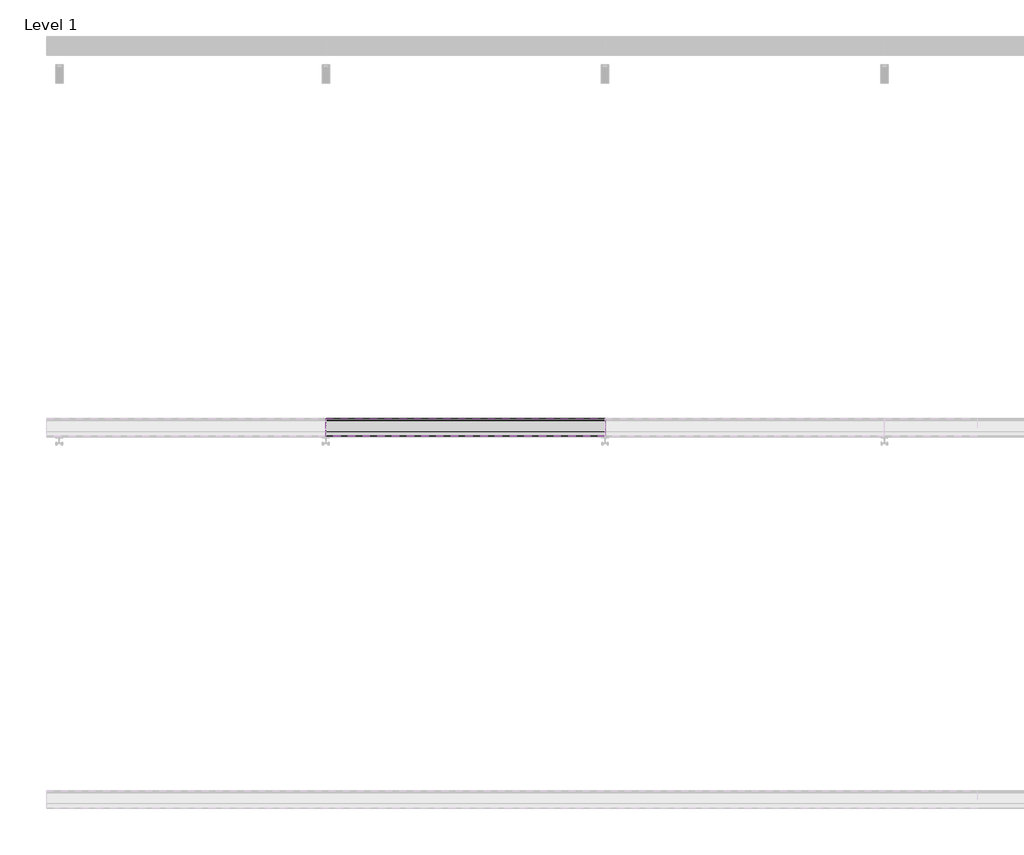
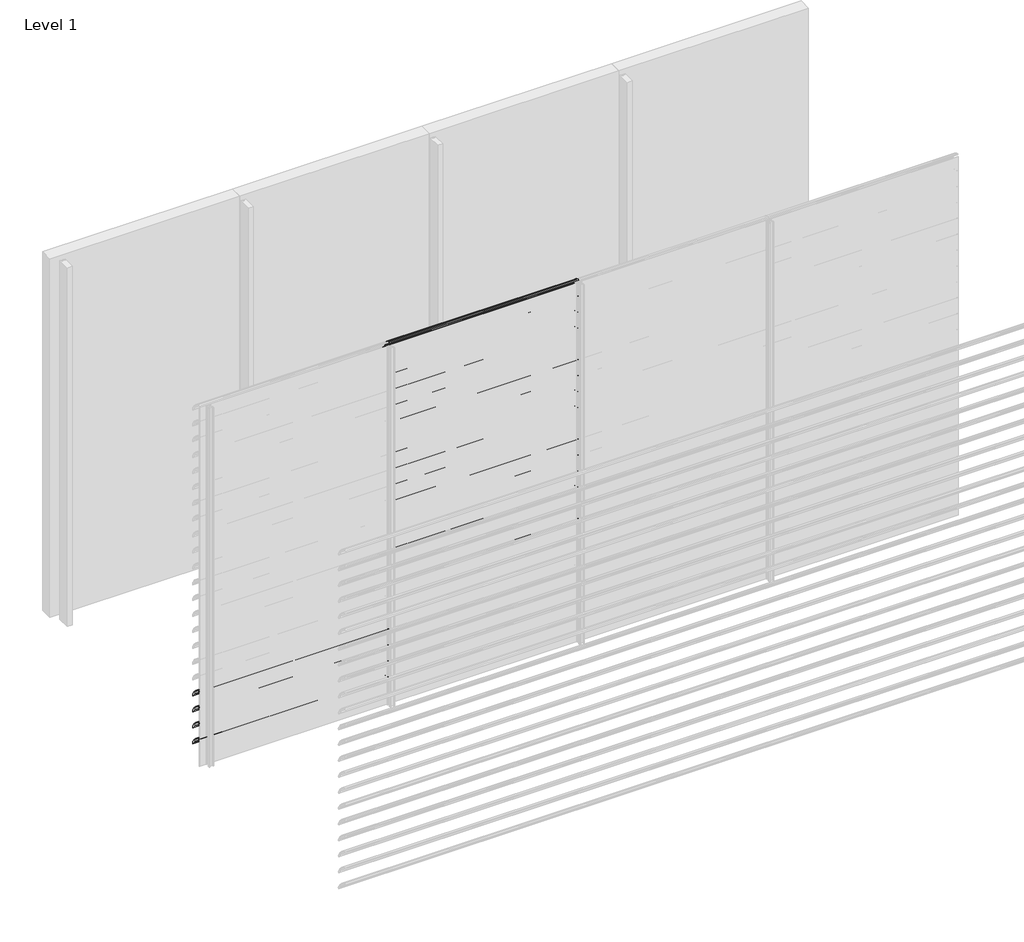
# One storey, part 16 of 57: 20 proxies.
"""IFC4 building model written with IfcOpenShell, lengths in millimetres."""

from ifc_helpers import new_model, si_unit, point, frame, frame_2d, origin, place, context, project, spatial, polyline, circle_curve, trimmed, segment, composite_curve, outline, extrude, element, save

model = new_model("IFC4")

# Units and contexts
model_context = context("Model", 3, world=origin())
ifc_project = project(units=[si_unit("LENGTHUNIT", "METRE", prefix="MILLI")], contexts=[model_context])

# Site, building, storey
site = spatial("IfcSite", under=ifc_project)
building = spatial("IfcBuilding", under=site)
storey = spatial("IfcBuildingStorey", under=building, Name="Level 1", Elevation=0.0)

# Proxies
placement = place(None, origin())
element("IfcBuildingElementProxy", 1, Name="Wall Sweeps", at=placement, inside=storey, context=model_context, shape_type="SweptSolid", body=[
    extrude(outline(composite_curve([segment(trimmed(circle_curve(frame_2d((-41993.7822526, 622.4913792)), 4.2177474), [point((-41989.6985606, 623.5462976))], [point((-41993.7822526, 626.7091266))], False, "CARTESIAN"), True, "CONTINUOUS"), segment(trimmed(circle_curve(frame_2d((-42018.7150834, 524.2536312)), 105.4456002), [point((-41993.7822526, 626.7091266))], [point((-41971.7914298, 618.6832099))], False, "CARTESIAN"), True, "CONTINUOUS"), segment(trimmed(circle_curve(frame_2d((-42061.7199745, 470.0352476)), 173.7335887), [point((-41971.7914298, 618.6832099))], [point((-41913.0720121, 559.9637922))], False, "CARTESIAN"), True, "CONTINUOUS"), segment(trimmed(circle_curve(frame_2d((-42004.9297178, 508.1860314)), 105.4456002), [point((-41913.0720121, 559.9637922))], [point((-41903.6249616, 537.4455765))], False, "CARTESIAN"), True, "CONTINUOUS"), segment(trimmed(circle_curve(frame_2d((-41907.809737, 536.3307305)), 4.3307305), [point((-41903.6249616, 537.4455765))], [point((-41909.0769196, 532.189538))], False, "CARTESIAN"), True, "CONTINUOUS"), segment(polyline([(-41909.0769196, 532.189538), (-41934.7401984, 556.9722783)]), True, "CONTINUOUS"), segment(trimmed(circle_curve(frame_2d((-41931.3879574, 559.2977626)), 4.079877), [point((-41934.7401984, 556.9722783))], [point((-41930.7310597, 563.3244091))], False, "CARTESIAN"), True, "CONTINUOUS"), segment(trimmed(circle_curve(frame_2d((-42014.6665585, 541.2544323)), 86.7885467), [point((-41930.7310597, 563.3244091))], [point((-41942.3028351, 589.1683485))], True, "CARTESIAN"), True, "CONTINUOUS"), segment(polyline([(-41942.3028351, 589.1683485), (-41940.7230099, 591.9046861)]), True, "CONTINUOUS"), segment(trimmed(circle_curve(frame_2d((-42061.7199745, 470.0352476)), 171.7335887), [point((-41940.7230099, 591.9046861))], [point((-41972.7555872, 616.9289618))], True, "CARTESIAN"), True, "CONTINUOUS"), segment(trimmed(circle_curve(frame_2d((-42018.7150834, 524.2536312)), 103.4456002), [point((-41972.7555872, 616.9289618))], [point((-41989.6985606, 623.5462976))], True, "CARTESIAN"), True, "CONTINUOUS")], self_intersect=False)), frame((0.0, 0.0, 0.0), z_axis=(1.0, 0.0, 0.0), x_axis=(0.0, 1.0, 0.0)), (0.0, 0.0, 1.0), 1500.0),
])
element("IfcBuildingElementProxy", 2, Name="Wall Sweeps", at=placement, inside=storey, context=model_context, shape_type="SweptSolid", body=[
    extrude(outline(composite_curve([segment(trimmed(circle_curve(frame_2d((-41993.7822526, 489.4913792)), 4.2177474), [point((-41989.6985606, 490.5462976))], [point((-41993.7822526, 493.7091266))], False, "CARTESIAN"), True, "CONTINUOUS"), segment(trimmed(circle_curve(frame_2d((-42018.7150834, 391.2536312)), 105.4456002), [point((-41993.7822526, 493.7091266))], [point((-41971.7914298, 485.6832099))], False, "CARTESIAN"), True, "CONTINUOUS"), segment(trimmed(circle_curve(frame_2d((-42061.7199745, 337.0352476)), 173.7335887), [point((-41971.7914298, 485.6832099))], [point((-41913.0720121, 426.9637922))], False, "CARTESIAN"), True, "CONTINUOUS"), segment(trimmed(circle_curve(frame_2d((-42004.9297178, 375.1860314)), 105.4456002), [point((-41913.0720121, 426.9637922))], [point((-41903.6249616, 404.4455765))], False, "CARTESIAN"), True, "CONTINUOUS"), segment(trimmed(circle_curve(frame_2d((-41907.809737, 403.3307305)), 4.3307305), [point((-41903.6249616, 404.4455765))], [point((-41909.0769196, 399.189538))], False, "CARTESIAN"), True, "CONTINUOUS"), segment(polyline([(-41909.0769196, 399.189538), (-41934.7401984, 423.9722783)]), True, "CONTINUOUS"), segment(trimmed(circle_curve(frame_2d((-41931.3879574, 426.2977626)), 4.079877), [point((-41934.7401984, 423.9722783))], [point((-41930.7310597, 430.3244091))], False, "CARTESIAN"), True, "CONTINUOUS"), segment(trimmed(circle_curve(frame_2d((-42014.6665585, 408.2544323)), 86.7885467), [point((-41930.7310597, 430.3244091))], [point((-41942.3028351, 456.1683485))], True, "CARTESIAN"), True, "CONTINUOUS"), segment(polyline([(-41942.3028351, 456.1683485), (-41940.7230099, 458.9046861)]), True, "CONTINUOUS"), segment(trimmed(circle_curve(frame_2d((-42061.7199745, 337.0352476)), 171.7335887), [point((-41940.7230099, 458.9046861))], [point((-41972.7555872, 483.9289618))], True, "CARTESIAN"), True, "CONTINUOUS"), segment(trimmed(circle_curve(frame_2d((-42018.7150834, 391.2536312)), 103.4456002), [point((-41972.7555872, 483.9289618))], [point((-41989.6985606, 490.5462976))], True, "CARTESIAN"), True, "CONTINUOUS")], self_intersect=False)), frame((0.0, 0.0, 0.0), z_axis=(1.0, 0.0, 0.0), x_axis=(0.0, 1.0, 0.0)), (0.0, 0.0, 1.0), 1500.0),
])
element("IfcBuildingElementProxy", 3, Name="Wall Sweeps", at=placement, inside=storey, context=model_context, shape_type="SweptSolid", body=[
    extrude(outline(composite_curve([segment(trimmed(circle_curve(frame_2d((-41993.7822526, 356.4913792)), 4.2177474), [point((-41989.6985606, 357.5462976))], [point((-41993.7822526, 360.7091266))], False, "CARTESIAN"), True, "CONTINUOUS"), segment(trimmed(circle_curve(frame_2d((-42018.7150834, 258.2536312)), 105.4456002), [point((-41993.7822526, 360.7091266))], [point((-41971.7914298, 352.6832099))], False, "CARTESIAN"), True, "CONTINUOUS"), segment(trimmed(circle_curve(frame_2d((-42061.7199745, 204.0352476)), 173.7335887), [point((-41971.7914298, 352.6832099))], [point((-41913.0720121, 293.9637922))], False, "CARTESIAN"), True, "CONTINUOUS"), segment(trimmed(circle_curve(frame_2d((-42004.9297178, 242.1860314)), 105.4456002), [point((-41913.0720121, 293.9637922))], [point((-41903.6249616, 271.4455765))], False, "CARTESIAN"), True, "CONTINUOUS"), segment(trimmed(circle_curve(frame_2d((-41907.809737, 270.3307305)), 4.3307305), [point((-41903.6249616, 271.4455765))], [point((-41909.0769196, 266.189538))], False, "CARTESIAN"), True, "CONTINUOUS"), segment(polyline([(-41909.0769196, 266.189538), (-41934.7401984, 290.9722783)]), True, "CONTINUOUS"), segment(trimmed(circle_curve(frame_2d((-41931.3879574, 293.2977626)), 4.079877), [point((-41934.7401984, 290.9722783))], [point((-41930.7310597, 297.3244091))], False, "CARTESIAN"), True, "CONTINUOUS"), segment(trimmed(circle_curve(frame_2d((-42014.6665585, 275.2544323)), 86.7885467), [point((-41930.7310597, 297.3244091))], [point((-41942.3028351, 323.1683485))], True, "CARTESIAN"), True, "CONTINUOUS"), segment(polyline([(-41942.3028351, 323.1683485), (-41940.7230099, 325.9046861)]), True, "CONTINUOUS"), segment(trimmed(circle_curve(frame_2d((-42061.7199745, 204.0352476)), 171.7335887), [point((-41940.7230099, 325.9046861))], [point((-41972.7555872, 350.9289618))], True, "CARTESIAN"), True, "CONTINUOUS"), segment(trimmed(circle_curve(frame_2d((-42018.7150834, 258.2536312)), 103.4456002), [point((-41972.7555872, 350.9289618))], [point((-41989.6985606, 357.5462976))], True, "CARTESIAN"), True, "CONTINUOUS")], self_intersect=False)), frame((0.0, 0.0, 0.0), z_axis=(1.0, 0.0, 0.0), x_axis=(0.0, 1.0, 0.0)), (0.0, 0.0, 1.0), 1500.0),
])
element("IfcBuildingElementProxy", 4, Name="Wall Sweeps", at=placement, inside=storey, context=model_context, shape_type="SweptSolid", body=[
    extrude(outline(composite_curve([segment(trimmed(circle_curve(frame_2d((-41993.7822526, 223.4913792)), 4.2177474), [point((-41989.6985606, 224.5462976))], [point((-41993.7822526, 227.7091266))], False, "CARTESIAN"), True, "CONTINUOUS"), segment(trimmed(circle_curve(frame_2d((-42018.7150834, 125.2536312)), 105.4456002), [point((-41993.7822526, 227.7091266))], [point((-41971.7914298, 219.6832099))], False, "CARTESIAN"), True, "CONTINUOUS"), segment(trimmed(circle_curve(frame_2d((-42061.7199745, 71.0352476)), 173.7335887), [point((-41971.7914298, 219.6832099))], [point((-41913.0720121, 160.9637922))], False, "CARTESIAN"), True, "CONTINUOUS"), segment(trimmed(circle_curve(frame_2d((-42004.9297178, 109.1860314)), 105.4456002), [point((-41913.0720121, 160.9637922))], [point((-41903.6249616, 138.4455765))], False, "CARTESIAN"), True, "CONTINUOUS"), segment(trimmed(circle_curve(frame_2d((-41907.809737, 137.3307305)), 4.3307305), [point((-41903.6249616, 138.4455765))], [point((-41909.0769196, 133.189538))], False, "CARTESIAN"), True, "CONTINUOUS"), segment(polyline([(-41909.0769196, 133.189538), (-41934.7401984, 157.9722783)]), True, "CONTINUOUS"), segment(trimmed(circle_curve(frame_2d((-41931.3879574, 160.2977626)), 4.079877), [point((-41934.7401984, 157.9722783))], [point((-41930.7310597, 164.3244091))], False, "CARTESIAN"), True, "CONTINUOUS"), segment(trimmed(circle_curve(frame_2d((-42014.6665585, 142.2544323)), 86.7885467), [point((-41930.7310597, 164.3244091))], [point((-41942.3028351, 190.1683485))], True, "CARTESIAN"), True, "CONTINUOUS"), segment(polyline([(-41942.3028351, 190.1683485), (-41940.7230099, 192.9046861)]), True, "CONTINUOUS"), segment(trimmed(circle_curve(frame_2d((-42061.7199745, 71.0352476)), 171.7335887), [point((-41940.7230099, 192.9046861))], [point((-41972.7555872, 217.9289618))], True, "CARTESIAN"), True, "CONTINUOUS"), segment(trimmed(circle_curve(frame_2d((-42018.7150834, 125.2536312)), 103.4456002), [point((-41972.7555872, 217.9289618))], [point((-41989.6985606, 224.5462976))], True, "CARTESIAN"), True, "CONTINUOUS")], self_intersect=False)), frame((0.0, 0.0, 0.0), z_axis=(1.0, 0.0, 0.0), x_axis=(0.0, 1.0, 0.0)), (0.0, 0.0, 1.0), 1500.0),
])
element("IfcBuildingElementProxy", 5, Name="Wall Sweeps", at=placement, inside=storey, context=model_context, shape_type="SweptSolid", body=[
    extrude(outline(composite_curve([segment(trimmed(circle_curve(frame_2d((-41993.7822526, 3016.4913792)), 4.2177474), [point((-41989.6985606, 3017.5462976))], [point((-41993.7822526, 3020.7091266))], False, "CARTESIAN"), True, "CONTINUOUS"), segment(trimmed(circle_curve(frame_2d((-42018.7150834, 2918.2536312)), 105.4456002), [point((-41993.7822526, 3020.7091266))], [point((-41971.7914298, 3012.6832099))], False, "CARTESIAN"), True, "CONTINUOUS"), segment(trimmed(circle_curve(frame_2d((-42061.7199745, 2864.0352476)), 173.7335887), [point((-41971.7914298, 3012.6832099))], [point((-41913.0720121, 2953.9637922))], False, "CARTESIAN"), True, "CONTINUOUS"), segment(trimmed(circle_curve(frame_2d((-42004.9297178, 2902.1860314)), 105.4456002), [point((-41913.0720121, 2953.9637922))], [point((-41903.6249616, 2931.4455765))], False, "CARTESIAN"), True, "CONTINUOUS"), segment(trimmed(circle_curve(frame_2d((-41907.809737, 2930.3307305)), 4.3307305), [point((-41903.6249616, 2931.4455765))], [point((-41909.0769196, 2926.189538))], False, "CARTESIAN"), True, "CONTINUOUS"), segment(polyline([(-41909.0769196, 2926.189538), (-41934.7401984, 2950.9722783)]), True, "CONTINUOUS"), segment(trimmed(circle_curve(frame_2d((-41931.3879574, 2953.2977626)), 4.079877), [point((-41934.7401984, 2950.9722783))], [point((-41930.7310597, 2957.3244091))], False, "CARTESIAN"), True, "CONTINUOUS"), segment(trimmed(circle_curve(frame_2d((-42014.6665585, 2935.2544323)), 86.7885467), [point((-41930.7310597, 2957.3244091))], [point((-41942.3028351, 2983.1683485))], True, "CARTESIAN"), True, "CONTINUOUS"), segment(polyline([(-41942.3028351, 2983.1683485), (-41940.7230099, 2985.9046861)]), True, "CONTINUOUS"), segment(trimmed(circle_curve(frame_2d((-42061.7199745, 2864.0352476)), 171.7335887), [point((-41940.7230099, 2985.9046861))], [point((-41972.7555872, 3010.9289618))], True, "CARTESIAN"), True, "CONTINUOUS"), segment(trimmed(circle_curve(frame_2d((-42018.7150834, 2918.2536312)), 103.4456002), [point((-41972.7555872, 3010.9289618))], [point((-41989.6985606, 3017.5462976))], True, "CARTESIAN"), True, "CONTINUOUS")], self_intersect=False)), frame((1500.0, 0.0, 0.0), z_axis=(1.0, 0.0, 0.0), x_axis=(0.0, 1.0, 0.0)), (0.0, 0.0, 1.0), 1500.0),
])
element("IfcBuildingElementProxy", 6, Name="Wall Sweeps", at=placement, inside=storey, context=model_context, shape_type="SweptSolid", body=[
    extrude(outline(composite_curve([segment(trimmed(circle_curve(frame_2d((-41993.7822526, 2883.4913792)), 4.2177474), [point((-41989.6985606, 2884.5462976))], [point((-41993.7822526, 2887.7091266))], False, "CARTESIAN"), True, "CONTINUOUS"), segment(trimmed(circle_curve(frame_2d((-42018.7150834, 2785.2536312)), 105.4456002), [point((-41993.7822526, 2887.7091266))], [point((-41971.7914298, 2879.6832099))], False, "CARTESIAN"), True, "CONTINUOUS"), segment(trimmed(circle_curve(frame_2d((-42061.7199745, 2731.0352476)), 173.7335887), [point((-41971.7914298, 2879.6832099))], [point((-41913.0720121, 2820.9637922))], False, "CARTESIAN"), True, "CONTINUOUS"), segment(trimmed(circle_curve(frame_2d((-42004.9297178, 2769.1860314)), 105.4456002), [point((-41913.0720121, 2820.9637922))], [point((-41903.6249616, 2798.4455765))], False, "CARTESIAN"), True, "CONTINUOUS"), segment(trimmed(circle_curve(frame_2d((-41907.809737, 2797.3307305)), 4.3307305), [point((-41903.6249616, 2798.4455765))], [point((-41909.0769196, 2793.189538))], False, "CARTESIAN"), True, "CONTINUOUS"), segment(polyline([(-41909.0769196, 2793.189538), (-41934.7401984, 2817.9722783)]), True, "CONTINUOUS"), segment(trimmed(circle_curve(frame_2d((-41931.3879574, 2820.2977626)), 4.079877), [point((-41934.7401984, 2817.9722783))], [point((-41930.7310597, 2824.3244091))], False, "CARTESIAN"), True, "CONTINUOUS"), segment(trimmed(circle_curve(frame_2d((-42014.6665585, 2802.2544323)), 86.7885467), [point((-41930.7310597, 2824.3244091))], [point((-41942.3028351, 2850.1683485))], True, "CARTESIAN"), True, "CONTINUOUS"), segment(polyline([(-41942.3028351, 2850.1683485), (-41940.7230099, 2852.9046861)]), True, "CONTINUOUS"), segment(trimmed(circle_curve(frame_2d((-42061.7199745, 2731.0352476)), 171.7335887), [point((-41940.7230099, 2852.9046861))], [point((-41972.7555872, 2877.9289618))], True, "CARTESIAN"), True, "CONTINUOUS"), segment(trimmed(circle_curve(frame_2d((-42018.7150834, 2785.2536312)), 103.4456002), [point((-41972.7555872, 2877.9289618))], [point((-41989.6985606, 2884.5462976))], True, "CARTESIAN"), True, "CONTINUOUS")], self_intersect=False)), frame((1500.0, 0.0, 0.0), z_axis=(1.0, 0.0, 0.0), x_axis=(0.0, 1.0, 0.0)), (0.0, 0.0, 1.0), 1500.0),
])
element("IfcBuildingElementProxy", 7, Name="Wall Sweeps", at=placement, inside=storey, context=model_context, shape_type="SweptSolid", body=[
    extrude(outline(composite_curve([segment(trimmed(circle_curve(frame_2d((-41993.7822526, 2750.4913792)), 4.2177474), [point((-41989.6985606, 2751.5462976))], [point((-41993.7822526, 2754.7091266))], False, "CARTESIAN"), True, "CONTINUOUS"), segment(trimmed(circle_curve(frame_2d((-42018.7150834, 2652.2536312)), 105.4456002), [point((-41993.7822526, 2754.7091266))], [point((-41971.7914298, 2746.6832099))], False, "CARTESIAN"), True, "CONTINUOUS"), segment(trimmed(circle_curve(frame_2d((-42061.7199745, 2598.0352476)), 173.7335887), [point((-41971.7914298, 2746.6832099))], [point((-41913.0720121, 2687.9637922))], False, "CARTESIAN"), True, "CONTINUOUS"), segment(trimmed(circle_curve(frame_2d((-42004.9297178, 2636.1860314)), 105.4456002), [point((-41913.0720121, 2687.9637922))], [point((-41903.6249616, 2665.4455765))], False, "CARTESIAN"), True, "CONTINUOUS"), segment(trimmed(circle_curve(frame_2d((-41907.809737, 2664.3307305)), 4.3307305), [point((-41903.6249616, 2665.4455765))], [point((-41909.0769196, 2660.189538))], False, "CARTESIAN"), True, "CONTINUOUS"), segment(polyline([(-41909.0769196, 2660.189538), (-41934.7401984, 2684.9722783)]), True, "CONTINUOUS"), segment(trimmed(circle_curve(frame_2d((-41931.3879574, 2687.2977626)), 4.079877), [point((-41934.7401984, 2684.9722783))], [point((-41930.7310597, 2691.3244091))], False, "CARTESIAN"), True, "CONTINUOUS"), segment(trimmed(circle_curve(frame_2d((-42014.6665585, 2669.2544323)), 86.7885467), [point((-41930.7310597, 2691.3244091))], [point((-41942.3028351, 2717.1683485))], True, "CARTESIAN"), True, "CONTINUOUS"), segment(polyline([(-41942.3028351, 2717.1683485), (-41940.7230099, 2719.9046861)]), True, "CONTINUOUS"), segment(trimmed(circle_curve(frame_2d((-42061.7199745, 2598.0352476)), 171.7335887), [point((-41940.7230099, 2719.9046861))], [point((-41972.7555872, 2744.9289618))], True, "CARTESIAN"), True, "CONTINUOUS"), segment(trimmed(circle_curve(frame_2d((-42018.7150834, 2652.2536312)), 103.4456002), [point((-41972.7555872, 2744.9289618))], [point((-41989.6985606, 2751.5462976))], True, "CARTESIAN"), True, "CONTINUOUS")], self_intersect=False)), frame((1500.0, 0.0, 0.0), z_axis=(1.0, 0.0, 0.0), x_axis=(0.0, 1.0, 0.0)), (0.0, 0.0, 1.0), 1500.0),
])
element("IfcBuildingElementProxy", 8, Name="Wall Sweeps", at=placement, inside=storey, context=model_context, shape_type="SweptSolid", body=[
    extrude(outline(composite_curve([segment(trimmed(circle_curve(frame_2d((-41993.7822526, 2617.4913792)), 4.2177474), [point((-41989.6985606, 2618.5462976))], [point((-41993.7822526, 2621.7091266))], False, "CARTESIAN"), True, "CONTINUOUS"), segment(trimmed(circle_curve(frame_2d((-42018.7150834, 2519.2536312)), 105.4456002), [point((-41993.7822526, 2621.7091266))], [point((-41971.7914298, 2613.6832099))], False, "CARTESIAN"), True, "CONTINUOUS"), segment(trimmed(circle_curve(frame_2d((-42061.7199745, 2465.0352476)), 173.7335887), [point((-41971.7914298, 2613.6832099))], [point((-41913.0720121, 2554.9637922))], False, "CARTESIAN"), True, "CONTINUOUS"), segment(trimmed(circle_curve(frame_2d((-42004.9297178, 2503.1860314)), 105.4456002), [point((-41913.0720121, 2554.9637922))], [point((-41903.6249616, 2532.4455765))], False, "CARTESIAN"), True, "CONTINUOUS"), segment(trimmed(circle_curve(frame_2d((-41907.809737, 2531.3307305)), 4.3307305), [point((-41903.6249616, 2532.4455765))], [point((-41909.0769196, 2527.189538))], False, "CARTESIAN"), True, "CONTINUOUS"), segment(polyline([(-41909.0769196, 2527.189538), (-41934.7401984, 2551.9722783)]), True, "CONTINUOUS"), segment(trimmed(circle_curve(frame_2d((-41931.3879574, 2554.2977626)), 4.079877), [point((-41934.7401984, 2551.9722783))], [point((-41930.7310597, 2558.3244091))], False, "CARTESIAN"), True, "CONTINUOUS"), segment(trimmed(circle_curve(frame_2d((-42014.6665585, 2536.2544323)), 86.7885467), [point((-41930.7310597, 2558.3244091))], [point((-41942.3028351, 2584.1683485))], True, "CARTESIAN"), True, "CONTINUOUS"), segment(polyline([(-41942.3028351, 2584.1683485), (-41940.7230099, 2586.9046861)]), True, "CONTINUOUS"), segment(trimmed(circle_curve(frame_2d((-42061.7199745, 2465.0352476)), 171.7335887), [point((-41940.7230099, 2586.9046861))], [point((-41972.7555872, 2611.9289618))], True, "CARTESIAN"), True, "CONTINUOUS"), segment(trimmed(circle_curve(frame_2d((-42018.7150834, 2519.2536312)), 103.4456002), [point((-41972.7555872, 2611.9289618))], [point((-41989.6985606, 2618.5462976))], True, "CARTESIAN"), True, "CONTINUOUS")], self_intersect=False)), frame((1500.0, 0.0, 0.0), z_axis=(1.0, 0.0, 0.0), x_axis=(0.0, 1.0, 0.0)), (0.0, 0.0, 1.0), 1500.0),
])
element("IfcBuildingElementProxy", 9, Name="Wall Sweeps", at=placement, inside=storey, context=model_context, shape_type="SweptSolid", body=[
    extrude(outline(composite_curve([segment(trimmed(circle_curve(frame_2d((-41993.7822526, 2484.4913792)), 4.2177474), [point((-41989.6985606, 2485.5462976))], [point((-41993.7822526, 2488.7091266))], False, "CARTESIAN"), True, "CONTINUOUS"), segment(trimmed(circle_curve(frame_2d((-42018.7150834, 2386.2536312)), 105.4456002), [point((-41993.7822526, 2488.7091266))], [point((-41971.7914298, 2480.6832099))], False, "CARTESIAN"), True, "CONTINUOUS"), segment(trimmed(circle_curve(frame_2d((-42061.7199745, 2332.0352476)), 173.7335887), [point((-41971.7914298, 2480.6832099))], [point((-41913.0720121, 2421.9637922))], False, "CARTESIAN"), True, "CONTINUOUS"), segment(trimmed(circle_curve(frame_2d((-42004.9297178, 2370.1860314)), 105.4456002), [point((-41913.0720121, 2421.9637922))], [point((-41903.6249616, 2399.4455765))], False, "CARTESIAN"), True, "CONTINUOUS"), segment(trimmed(circle_curve(frame_2d((-41907.809737, 2398.3307305)), 4.3307305), [point((-41903.6249616, 2399.4455765))], [point((-41909.0769196, 2394.189538))], False, "CARTESIAN"), True, "CONTINUOUS"), segment(polyline([(-41909.0769196, 2394.189538), (-41934.7401984, 2418.9722783)]), True, "CONTINUOUS"), segment(trimmed(circle_curve(frame_2d((-41931.3879574, 2421.2977626)), 4.079877), [point((-41934.7401984, 2418.9722783))], [point((-41930.7310597, 2425.3244091))], False, "CARTESIAN"), True, "CONTINUOUS"), segment(trimmed(circle_curve(frame_2d((-42014.6665585, 2403.2544323)), 86.7885467), [point((-41930.7310597, 2425.3244091))], [point((-41942.3028351, 2451.1683485))], True, "CARTESIAN"), True, "CONTINUOUS"), segment(polyline([(-41942.3028351, 2451.1683485), (-41940.7230099, 2453.9046861)]), True, "CONTINUOUS"), segment(trimmed(circle_curve(frame_2d((-42061.7199745, 2332.0352476)), 171.7335887), [point((-41940.7230099, 2453.9046861))], [point((-41972.7555872, 2478.9289618))], True, "CARTESIAN"), True, "CONTINUOUS"), segment(trimmed(circle_curve(frame_2d((-42018.7150834, 2386.2536312)), 103.4456002), [point((-41972.7555872, 2478.9289618))], [point((-41989.6985606, 2485.5462976))], True, "CARTESIAN"), True, "CONTINUOUS")], self_intersect=False)), frame((1500.0, 0.0, 0.0), z_axis=(1.0, 0.0, 0.0), x_axis=(0.0, 1.0, 0.0)), (0.0, 0.0, 1.0), 1500.0),
])
element("IfcBuildingElementProxy", 10, Name="Wall Sweeps", at=placement, inside=storey, context=model_context, shape_type="SweptSolid", body=[
    extrude(outline(composite_curve([segment(trimmed(circle_curve(frame_2d((-41993.7822526, 2351.4913792)), 4.2177474), [point((-41989.6985606, 2352.5462976))], [point((-41993.7822526, 2355.7091266))], False, "CARTESIAN"), True, "CONTINUOUS"), segment(trimmed(circle_curve(frame_2d((-42018.7150834, 2253.2536312)), 105.4456002), [point((-41993.7822526, 2355.7091266))], [point((-41971.7914298, 2347.6832099))], False, "CARTESIAN"), True, "CONTINUOUS"), segment(trimmed(circle_curve(frame_2d((-42061.7199745, 2199.0352476)), 173.7335887), [point((-41971.7914298, 2347.6832099))], [point((-41913.0720121, 2288.9637922))], False, "CARTESIAN"), True, "CONTINUOUS"), segment(trimmed(circle_curve(frame_2d((-42004.9297178, 2237.1860314)), 105.4456002), [point((-41913.0720121, 2288.9637922))], [point((-41903.6249616, 2266.4455765))], False, "CARTESIAN"), True, "CONTINUOUS"), segment(trimmed(circle_curve(frame_2d((-41907.809737, 2265.3307305)), 4.3307305), [point((-41903.6249616, 2266.4455765))], [point((-41909.0769196, 2261.189538))], False, "CARTESIAN"), True, "CONTINUOUS"), segment(polyline([(-41909.0769196, 2261.189538), (-41934.7401984, 2285.9722783)]), True, "CONTINUOUS"), segment(trimmed(circle_curve(frame_2d((-41931.3879574, 2288.2977626)), 4.079877), [point((-41934.7401984, 2285.9722783))], [point((-41930.7310597, 2292.3244091))], False, "CARTESIAN"), True, "CONTINUOUS"), segment(trimmed(circle_curve(frame_2d((-42014.6665585, 2270.2544323)), 86.7885467), [point((-41930.7310597, 2292.3244091))], [point((-41942.3028351, 2318.1683485))], True, "CARTESIAN"), True, "CONTINUOUS"), segment(polyline([(-41942.3028351, 2318.1683485), (-41940.7230099, 2320.9046861)]), True, "CONTINUOUS"), segment(trimmed(circle_curve(frame_2d((-42061.7199745, 2199.0352476)), 171.7335887), [point((-41940.7230099, 2320.9046861))], [point((-41972.7555872, 2345.9289618))], True, "CARTESIAN"), True, "CONTINUOUS"), segment(trimmed(circle_curve(frame_2d((-42018.7150834, 2253.2536312)), 103.4456002), [point((-41972.7555872, 2345.9289618))], [point((-41989.6985606, 2352.5462976))], True, "CARTESIAN"), True, "CONTINUOUS")], self_intersect=False)), frame((1500.0, 0.0, 0.0), z_axis=(1.0, 0.0, 0.0), x_axis=(0.0, 1.0, 0.0)), (0.0, 0.0, 1.0), 1500.0),
])
element("IfcBuildingElementProxy", 11, Name="Wall Sweeps", at=placement, inside=storey, context=model_context, shape_type="SweptSolid", body=[
    extrude(outline(composite_curve([segment(trimmed(circle_curve(frame_2d((-41993.7822526, 2218.4913792)), 4.2177474), [point((-41989.6985606, 2219.5462976))], [point((-41993.7822526, 2222.7091266))], False, "CARTESIAN"), True, "CONTINUOUS"), segment(trimmed(circle_curve(frame_2d((-42018.7150834, 2120.2536312)), 105.4456002), [point((-41993.7822526, 2222.7091266))], [point((-41971.7914298, 2214.6832099))], False, "CARTESIAN"), True, "CONTINUOUS"), segment(trimmed(circle_curve(frame_2d((-42061.7199745, 2066.0352476)), 173.7335887), [point((-41971.7914298, 2214.6832099))], [point((-41913.0720121, 2155.9637922))], False, "CARTESIAN"), True, "CONTINUOUS"), segment(trimmed(circle_curve(frame_2d((-42004.9297178, 2104.1860314)), 105.4456002), [point((-41913.0720121, 2155.9637922))], [point((-41903.6249616, 2133.4455765))], False, "CARTESIAN"), True, "CONTINUOUS"), segment(trimmed(circle_curve(frame_2d((-41907.809737, 2132.3307305)), 4.3307305), [point((-41903.6249616, 2133.4455765))], [point((-41909.0769196, 2128.189538))], False, "CARTESIAN"), True, "CONTINUOUS"), segment(polyline([(-41909.0769196, 2128.189538), (-41934.7401984, 2152.9722783)]), True, "CONTINUOUS"), segment(trimmed(circle_curve(frame_2d((-41931.3879574, 2155.2977626)), 4.079877), [point((-41934.7401984, 2152.9722783))], [point((-41930.7310597, 2159.3244091))], False, "CARTESIAN"), True, "CONTINUOUS"), segment(trimmed(circle_curve(frame_2d((-42014.6665585, 2137.2544323)), 86.7885467), [point((-41930.7310597, 2159.3244091))], [point((-41942.3028351, 2185.1683485))], True, "CARTESIAN"), True, "CONTINUOUS"), segment(polyline([(-41942.3028351, 2185.1683485), (-41940.7230099, 2187.9046861)]), True, "CONTINUOUS"), segment(trimmed(circle_curve(frame_2d((-42061.7199745, 2066.0352476)), 171.7335887), [point((-41940.7230099, 2187.9046861))], [point((-41972.7555872, 2212.9289618))], True, "CARTESIAN"), True, "CONTINUOUS"), segment(trimmed(circle_curve(frame_2d((-42018.7150834, 2120.2536312)), 103.4456002), [point((-41972.7555872, 2212.9289618))], [point((-41989.6985606, 2219.5462976))], True, "CARTESIAN"), True, "CONTINUOUS")], self_intersect=False)), frame((1500.0, 0.0, 0.0), z_axis=(1.0, 0.0, 0.0), x_axis=(0.0, 1.0, 0.0)), (0.0, 0.0, 1.0), 1500.0),
])
element("IfcBuildingElementProxy", 12, Name="Wall Sweeps", at=placement, inside=storey, context=model_context, shape_type="SweptSolid", body=[
    extrude(outline(composite_curve([segment(trimmed(circle_curve(frame_2d((-41993.7822526, 2085.4913792)), 4.2177474), [point((-41989.6985606, 2086.5462976))], [point((-41993.7822526, 2089.7091266))], False, "CARTESIAN"), True, "CONTINUOUS"), segment(trimmed(circle_curve(frame_2d((-42018.7150834, 1987.2536312)), 105.4456002), [point((-41993.7822526, 2089.7091266))], [point((-41971.7914298, 2081.6832099))], False, "CARTESIAN"), True, "CONTINUOUS"), segment(trimmed(circle_curve(frame_2d((-42061.7199745, 1933.0352476)), 173.7335887), [point((-41971.7914298, 2081.6832099))], [point((-41913.0720121, 2022.9637922))], False, "CARTESIAN"), True, "CONTINUOUS"), segment(trimmed(circle_curve(frame_2d((-42004.9297178, 1971.1860314)), 105.4456002), [point((-41913.0720121, 2022.9637922))], [point((-41903.6249616, 2000.4455765))], False, "CARTESIAN"), True, "CONTINUOUS"), segment(trimmed(circle_curve(frame_2d((-41907.809737, 1999.3307305)), 4.3307305), [point((-41903.6249616, 2000.4455765))], [point((-41909.0769196, 1995.189538))], False, "CARTESIAN"), True, "CONTINUOUS"), segment(polyline([(-41909.0769196, 1995.189538), (-41934.7401984, 2019.9722783)]), True, "CONTINUOUS"), segment(trimmed(circle_curve(frame_2d((-41931.3879574, 2022.2977626)), 4.079877), [point((-41934.7401984, 2019.9722783))], [point((-41930.7310597, 2026.3244091))], False, "CARTESIAN"), True, "CONTINUOUS"), segment(trimmed(circle_curve(frame_2d((-42014.6665585, 2004.2544323)), 86.7885467), [point((-41930.7310597, 2026.3244091))], [point((-41942.3028351, 2052.1683485))], True, "CARTESIAN"), True, "CONTINUOUS"), segment(polyline([(-41942.3028351, 2052.1683485), (-41940.7230099, 2054.9046861)]), True, "CONTINUOUS"), segment(trimmed(circle_curve(frame_2d((-42061.7199745, 1933.0352476)), 171.7335887), [point((-41940.7230099, 2054.9046861))], [point((-41972.7555872, 2079.9289618))], True, "CARTESIAN"), True, "CONTINUOUS"), segment(trimmed(circle_curve(frame_2d((-42018.7150834, 1987.2536312)), 103.4456002), [point((-41972.7555872, 2079.9289618))], [point((-41989.6985606, 2086.5462976))], True, "CARTESIAN"), True, "CONTINUOUS")], self_intersect=False)), frame((1500.0, 0.0, 0.0), z_axis=(1.0, 0.0, 0.0), x_axis=(0.0, 1.0, 0.0)), (0.0, 0.0, 1.0), 1500.0),
])
element("IfcBuildingElementProxy", 13, Name="Wall Sweeps", at=placement, inside=storey, context=model_context, shape_type="SweptSolid", body=[
    extrude(outline(composite_curve([segment(trimmed(circle_curve(frame_2d((-41993.7822526, 1952.4913792)), 4.2177474), [point((-41989.6985606, 1953.5462976))], [point((-41993.7822526, 1956.7091266))], False, "CARTESIAN"), True, "CONTINUOUS"), segment(trimmed(circle_curve(frame_2d((-42018.7150834, 1854.2536312)), 105.4456002), [point((-41993.7822526, 1956.7091266))], [point((-41971.7914298, 1948.6832099))], False, "CARTESIAN"), True, "CONTINUOUS"), segment(trimmed(circle_curve(frame_2d((-42061.7199745, 1800.0352476)), 173.7335887), [point((-41971.7914298, 1948.6832099))], [point((-41913.0720121, 1889.9637922))], False, "CARTESIAN"), True, "CONTINUOUS"), segment(trimmed(circle_curve(frame_2d((-42004.9297178, 1838.1860314)), 105.4456002), [point((-41913.0720121, 1889.9637922))], [point((-41903.6249616, 1867.4455765))], False, "CARTESIAN"), True, "CONTINUOUS"), segment(trimmed(circle_curve(frame_2d((-41907.809737, 1866.3307305)), 4.3307305), [point((-41903.6249616, 1867.4455765))], [point((-41909.0769196, 1862.189538))], False, "CARTESIAN"), True, "CONTINUOUS"), segment(polyline([(-41909.0769196, 1862.189538), (-41934.7401984, 1886.9722783)]), True, "CONTINUOUS"), segment(trimmed(circle_curve(frame_2d((-41931.3879574, 1889.2977626)), 4.079877), [point((-41934.7401984, 1886.9722783))], [point((-41930.7310597, 1893.3244091))], False, "CARTESIAN"), True, "CONTINUOUS"), segment(trimmed(circle_curve(frame_2d((-42014.6665585, 1871.2544323)), 86.7885467), [point((-41930.7310597, 1893.3244091))], [point((-41942.3028351, 1919.1683485))], True, "CARTESIAN"), True, "CONTINUOUS"), segment(polyline([(-41942.3028351, 1919.1683485), (-41940.7230099, 1921.9046861)]), True, "CONTINUOUS"), segment(trimmed(circle_curve(frame_2d((-42061.7199745, 1800.0352476)), 171.7335887), [point((-41940.7230099, 1921.9046861))], [point((-41972.7555872, 1946.9289618))], True, "CARTESIAN"), True, "CONTINUOUS"), segment(trimmed(circle_curve(frame_2d((-42018.7150834, 1854.2536312)), 103.4456002), [point((-41972.7555872, 1946.9289618))], [point((-41989.6985606, 1953.5462976))], True, "CARTESIAN"), True, "CONTINUOUS")], self_intersect=False)), frame((1500.0, 0.0, 0.0), z_axis=(1.0, 0.0, 0.0), x_axis=(0.0, 1.0, 0.0)), (0.0, 0.0, 1.0), 1500.0),
])
element("IfcBuildingElementProxy", 14, Name="Wall Sweeps", at=placement, inside=storey, context=model_context, shape_type="SweptSolid", body=[
    extrude(outline(composite_curve([segment(trimmed(circle_curve(frame_2d((-41993.7822526, 1819.4913792)), 4.2177474), [point((-41989.6985606, 1820.5462976))], [point((-41993.7822526, 1823.7091266))], False, "CARTESIAN"), True, "CONTINUOUS"), segment(trimmed(circle_curve(frame_2d((-42018.7150834, 1721.2536312)), 105.4456002), [point((-41993.7822526, 1823.7091266))], [point((-41971.7914298, 1815.6832099))], False, "CARTESIAN"), True, "CONTINUOUS"), segment(trimmed(circle_curve(frame_2d((-42061.7199745, 1667.0352476)), 173.7335887), [point((-41971.7914298, 1815.6832099))], [point((-41913.0720121, 1756.9637922))], False, "CARTESIAN"), True, "CONTINUOUS"), segment(trimmed(circle_curve(frame_2d((-42004.9297178, 1705.1860314)), 105.4456002), [point((-41913.0720121, 1756.9637922))], [point((-41903.6249616, 1734.4455765))], False, "CARTESIAN"), True, "CONTINUOUS"), segment(trimmed(circle_curve(frame_2d((-41907.809737, 1733.3307305)), 4.3307305), [point((-41903.6249616, 1734.4455765))], [point((-41909.0769196, 1729.189538))], False, "CARTESIAN"), True, "CONTINUOUS"), segment(polyline([(-41909.0769196, 1729.189538), (-41934.7401984, 1753.9722783)]), True, "CONTINUOUS"), segment(trimmed(circle_curve(frame_2d((-41931.3879574, 1756.2977626)), 4.079877), [point((-41934.7401984, 1753.9722783))], [point((-41930.7310597, 1760.3244091))], False, "CARTESIAN"), True, "CONTINUOUS"), segment(trimmed(circle_curve(frame_2d((-42014.6665585, 1738.2544323)), 86.7885467), [point((-41930.7310597, 1760.3244091))], [point((-41942.3028351, 1786.1683485))], True, "CARTESIAN"), True, "CONTINUOUS"), segment(polyline([(-41942.3028351, 1786.1683485), (-41940.7230099, 1788.9046861)]), True, "CONTINUOUS"), segment(trimmed(circle_curve(frame_2d((-42061.7199745, 1667.0352476)), 171.7335887), [point((-41940.7230099, 1788.9046861))], [point((-41972.7555872, 1813.9289618))], True, "CARTESIAN"), True, "CONTINUOUS"), segment(trimmed(circle_curve(frame_2d((-42018.7150834, 1721.2536312)), 103.4456002), [point((-41972.7555872, 1813.9289618))], [point((-41989.6985606, 1820.5462976))], True, "CARTESIAN"), True, "CONTINUOUS")], self_intersect=False)), frame((1500.0, 0.0, 0.0), z_axis=(1.0, 0.0, 0.0), x_axis=(0.0, 1.0, 0.0)), (0.0, 0.0, 1.0), 1500.0),
])
element("IfcBuildingElementProxy", 15, Name="Wall Sweeps", at=placement, inside=storey, context=model_context, shape_type="SweptSolid", body=[
    extrude(outline(composite_curve([segment(trimmed(circle_curve(frame_2d((-41993.7822526, 1686.4913792)), 4.2177474), [point((-41989.6985606, 1687.5462976))], [point((-41993.7822526, 1690.7091266))], False, "CARTESIAN"), True, "CONTINUOUS"), segment(trimmed(circle_curve(frame_2d((-42018.7150834, 1588.2536312)), 105.4456002), [point((-41993.7822526, 1690.7091266))], [point((-41971.7914298, 1682.6832099))], False, "CARTESIAN"), True, "CONTINUOUS"), segment(trimmed(circle_curve(frame_2d((-42061.7199745, 1534.0352476)), 173.7335887), [point((-41971.7914298, 1682.6832099))], [point((-41913.0720121, 1623.9637922))], False, "CARTESIAN"), True, "CONTINUOUS"), segment(trimmed(circle_curve(frame_2d((-42004.9297178, 1572.1860314)), 105.4456002), [point((-41913.0720121, 1623.9637922))], [point((-41903.6249616, 1601.4455765))], False, "CARTESIAN"), True, "CONTINUOUS"), segment(trimmed(circle_curve(frame_2d((-41907.809737, 1600.3307305)), 4.3307305), [point((-41903.6249616, 1601.4455765))], [point((-41909.0769196, 1596.189538))], False, "CARTESIAN"), True, "CONTINUOUS"), segment(polyline([(-41909.0769196, 1596.189538), (-41934.7401984, 1620.9722783)]), True, "CONTINUOUS"), segment(trimmed(circle_curve(frame_2d((-41931.3879574, 1623.2977626)), 4.079877), [point((-41934.7401984, 1620.9722783))], [point((-41930.7310597, 1627.3244091))], False, "CARTESIAN"), True, "CONTINUOUS"), segment(trimmed(circle_curve(frame_2d((-42014.6665585, 1605.2544323)), 86.7885467), [point((-41930.7310597, 1627.3244091))], [point((-41942.3028351, 1653.1683485))], True, "CARTESIAN"), True, "CONTINUOUS"), segment(polyline([(-41942.3028351, 1653.1683485), (-41940.7230099, 1655.9046861)]), True, "CONTINUOUS"), segment(trimmed(circle_curve(frame_2d((-42061.7199745, 1534.0352476)), 171.7335887), [point((-41940.7230099, 1655.9046861))], [point((-41972.7555872, 1680.9289618))], True, "CARTESIAN"), True, "CONTINUOUS"), segment(trimmed(circle_curve(frame_2d((-42018.7150834, 1588.2536312)), 103.4456002), [point((-41972.7555872, 1680.9289618))], [point((-41989.6985606, 1687.5462976))], True, "CARTESIAN"), True, "CONTINUOUS")], self_intersect=False)), frame((1500.0, 0.0, 0.0), z_axis=(1.0, 0.0, 0.0), x_axis=(0.0, 1.0, 0.0)), (0.0, 0.0, 1.0), 1500.0),
])
element("IfcBuildingElementProxy", 16, Name="Wall Sweeps", at=placement, inside=storey, context=model_context, shape_type="SweptSolid", body=[
    extrude(outline(composite_curve([segment(trimmed(circle_curve(frame_2d((-41993.7822526, 1553.4913792)), 4.2177474), [point((-41989.6985606, 1554.5462976))], [point((-41993.7822526, 1557.7091266))], False, "CARTESIAN"), True, "CONTINUOUS"), segment(trimmed(circle_curve(frame_2d((-42018.7150834, 1455.2536312)), 105.4456002), [point((-41993.7822526, 1557.7091266))], [point((-41971.7914298, 1549.6832099))], False, "CARTESIAN"), True, "CONTINUOUS"), segment(trimmed(circle_curve(frame_2d((-42061.7199745, 1401.0352476)), 173.7335887), [point((-41971.7914298, 1549.6832099))], [point((-41913.0720121, 1490.9637922))], False, "CARTESIAN"), True, "CONTINUOUS"), segment(trimmed(circle_curve(frame_2d((-42004.9297178, 1439.1860314)), 105.4456002), [point((-41913.0720121, 1490.9637922))], [point((-41903.6249616, 1468.4455765))], False, "CARTESIAN"), True, "CONTINUOUS"), segment(trimmed(circle_curve(frame_2d((-41907.809737, 1467.3307305)), 4.3307305), [point((-41903.6249616, 1468.4455765))], [point((-41909.0769196, 1463.189538))], False, "CARTESIAN"), True, "CONTINUOUS"), segment(polyline([(-41909.0769196, 1463.189538), (-41934.7401984, 1487.9722783)]), True, "CONTINUOUS"), segment(trimmed(circle_curve(frame_2d((-41931.3879574, 1490.2977626)), 4.079877), [point((-41934.7401984, 1487.9722783))], [point((-41930.7310597, 1494.3244091))], False, "CARTESIAN"), True, "CONTINUOUS"), segment(trimmed(circle_curve(frame_2d((-42014.6665585, 1472.2544323)), 86.7885467), [point((-41930.7310597, 1494.3244091))], [point((-41942.3028351, 1520.1683485))], True, "CARTESIAN"), True, "CONTINUOUS"), segment(polyline([(-41942.3028351, 1520.1683485), (-41940.7230099, 1522.9046861)]), True, "CONTINUOUS"), segment(trimmed(circle_curve(frame_2d((-42061.7199745, 1401.0352476)), 171.7335887), [point((-41940.7230099, 1522.9046861))], [point((-41972.7555872, 1547.9289618))], True, "CARTESIAN"), True, "CONTINUOUS"), segment(trimmed(circle_curve(frame_2d((-42018.7150834, 1455.2536312)), 103.4456002), [point((-41972.7555872, 1547.9289618))], [point((-41989.6985606, 1554.5462976))], True, "CARTESIAN"), True, "CONTINUOUS")], self_intersect=False)), frame((1500.0, 0.0, 0.0), z_axis=(1.0, 0.0, 0.0), x_axis=(0.0, 1.0, 0.0)), (0.0, 0.0, 1.0), 1500.0),
])
element("IfcBuildingElementProxy", 17, Name="Wall Sweeps", at=placement, inside=storey, context=model_context, shape_type="SweptSolid", body=[
    extrude(outline(composite_curve([segment(trimmed(circle_curve(frame_2d((-41993.7822526, 1420.4913792)), 4.2177474), [point((-41989.6985606, 1421.5462976))], [point((-41993.7822526, 1424.7091266))], False, "CARTESIAN"), True, "CONTINUOUS"), segment(trimmed(circle_curve(frame_2d((-42018.7150834, 1322.2536312)), 105.4456002), [point((-41993.7822526, 1424.7091266))], [point((-41971.7914298, 1416.6832099))], False, "CARTESIAN"), True, "CONTINUOUS"), segment(trimmed(circle_curve(frame_2d((-42061.7199745, 1268.0352476)), 173.7335887), [point((-41971.7914298, 1416.6832099))], [point((-41913.0720121, 1357.9637922))], False, "CARTESIAN"), True, "CONTINUOUS"), segment(trimmed(circle_curve(frame_2d((-42004.9297178, 1306.1860314)), 105.4456002), [point((-41913.0720121, 1357.9637922))], [point((-41903.6249616, 1335.4455765))], False, "CARTESIAN"), True, "CONTINUOUS"), segment(trimmed(circle_curve(frame_2d((-41907.809737, 1334.3307305)), 4.3307305), [point((-41903.6249616, 1335.4455765))], [point((-41909.0769196, 1330.189538))], False, "CARTESIAN"), True, "CONTINUOUS"), segment(polyline([(-41909.0769196, 1330.189538), (-41934.7401984, 1354.9722783)]), True, "CONTINUOUS"), segment(trimmed(circle_curve(frame_2d((-41931.3879574, 1357.2977626)), 4.079877), [point((-41934.7401984, 1354.9722783))], [point((-41930.7310597, 1361.3244091))], False, "CARTESIAN"), True, "CONTINUOUS"), segment(trimmed(circle_curve(frame_2d((-42014.6665585, 1339.2544323)), 86.7885467), [point((-41930.7310597, 1361.3244091))], [point((-41942.3028351, 1387.1683485))], True, "CARTESIAN"), True, "CONTINUOUS"), segment(polyline([(-41942.3028351, 1387.1683485), (-41940.7230099, 1389.9046861)]), True, "CONTINUOUS"), segment(trimmed(circle_curve(frame_2d((-42061.7199745, 1268.0352476)), 171.7335887), [point((-41940.7230099, 1389.9046861))], [point((-41972.7555872, 1414.9289618))], True, "CARTESIAN"), True, "CONTINUOUS"), segment(trimmed(circle_curve(frame_2d((-42018.7150834, 1322.2536312)), 103.4456002), [point((-41972.7555872, 1414.9289618))], [point((-41989.6985606, 1421.5462976))], True, "CARTESIAN"), True, "CONTINUOUS")], self_intersect=False)), frame((1500.0, 0.0, 0.0), z_axis=(1.0, 0.0, 0.0), x_axis=(0.0, 1.0, 0.0)), (0.0, 0.0, 1.0), 1500.0),
])
element("IfcBuildingElementProxy", 18, Name="Wall Sweeps", at=placement, inside=storey, context=model_context, shape_type="SweptSolid", body=[
    extrude(outline(composite_curve([segment(trimmed(circle_curve(frame_2d((-41993.7822526, 1287.4913792)), 4.2177474), [point((-41989.6985606, 1288.5462976))], [point((-41993.7822526, 1291.7091266))], False, "CARTESIAN"), True, "CONTINUOUS"), segment(trimmed(circle_curve(frame_2d((-42018.7150834, 1189.2536312)), 105.4456002), [point((-41993.7822526, 1291.7091266))], [point((-41971.7914298, 1283.6832099))], False, "CARTESIAN"), True, "CONTINUOUS"), segment(trimmed(circle_curve(frame_2d((-42061.7199745, 1135.0352476)), 173.7335887), [point((-41971.7914298, 1283.6832099))], [point((-41913.0720121, 1224.9637922))], False, "CARTESIAN"), True, "CONTINUOUS"), segment(trimmed(circle_curve(frame_2d((-42004.9297178, 1173.1860314)), 105.4456002), [point((-41913.0720121, 1224.9637922))], [point((-41903.6249616, 1202.4455765))], False, "CARTESIAN"), True, "CONTINUOUS"), segment(trimmed(circle_curve(frame_2d((-41907.809737, 1201.3307305)), 4.3307305), [point((-41903.6249616, 1202.4455765))], [point((-41909.0769196, 1197.189538))], False, "CARTESIAN"), True, "CONTINUOUS"), segment(polyline([(-41909.0769196, 1197.189538), (-41934.7401984, 1221.9722783)]), True, "CONTINUOUS"), segment(trimmed(circle_curve(frame_2d((-41931.3879574, 1224.2977626)), 4.079877), [point((-41934.7401984, 1221.9722783))], [point((-41930.7310597, 1228.3244091))], False, "CARTESIAN"), True, "CONTINUOUS"), segment(trimmed(circle_curve(frame_2d((-42014.6665585, 1206.2544323)), 86.7885467), [point((-41930.7310597, 1228.3244091))], [point((-41942.3028351, 1254.1683485))], True, "CARTESIAN"), True, "CONTINUOUS"), segment(polyline([(-41942.3028351, 1254.1683485), (-41940.7230099, 1256.9046861)]), True, "CONTINUOUS"), segment(trimmed(circle_curve(frame_2d((-42061.7199745, 1135.0352476)), 171.7335887), [point((-41940.7230099, 1256.9046861))], [point((-41972.7555872, 1281.9289618))], True, "CARTESIAN"), True, "CONTINUOUS"), segment(trimmed(circle_curve(frame_2d((-42018.7150834, 1189.2536312)), 103.4456002), [point((-41972.7555872, 1281.9289618))], [point((-41989.6985606, 1288.5462976))], True, "CARTESIAN"), True, "CONTINUOUS")], self_intersect=False)), frame((1500.0, 0.0, 0.0), z_axis=(1.0, 0.0, 0.0), x_axis=(0.0, 1.0, 0.0)), (0.0, 0.0, 1.0), 1500.0),
])
element("IfcBuildingElementProxy", 19, Name="Wall Sweeps", at=placement, inside=storey, context=model_context, shape_type="SweptSolid", body=[
    extrude(outline(composite_curve([segment(trimmed(circle_curve(frame_2d((-41993.7822526, 1154.4913792)), 4.2177474), [point((-41989.6985606, 1155.5462976))], [point((-41993.7822526, 1158.7091266))], False, "CARTESIAN"), True, "CONTINUOUS"), segment(trimmed(circle_curve(frame_2d((-42018.7150834, 1056.2536312)), 105.4456002), [point((-41993.7822526, 1158.7091266))], [point((-41971.7914298, 1150.6832099))], False, "CARTESIAN"), True, "CONTINUOUS"), segment(trimmed(circle_curve(frame_2d((-42061.7199745, 1002.0352476)), 173.7335887), [point((-41971.7914298, 1150.6832099))], [point((-41913.0720121, 1091.9637922))], False, "CARTESIAN"), True, "CONTINUOUS"), segment(trimmed(circle_curve(frame_2d((-42004.9297178, 1040.1860314)), 105.4456002), [point((-41913.0720121, 1091.9637922))], [point((-41903.6249616, 1069.4455765))], False, "CARTESIAN"), True, "CONTINUOUS"), segment(trimmed(circle_curve(frame_2d((-41907.809737, 1068.3307305)), 4.3307305), [point((-41903.6249616, 1069.4455765))], [point((-41909.0769196, 1064.189538))], False, "CARTESIAN"), True, "CONTINUOUS"), segment(polyline([(-41909.0769196, 1064.189538), (-41934.7401984, 1088.9722783)]), True, "CONTINUOUS"), segment(trimmed(circle_curve(frame_2d((-41931.3879574, 1091.2977626)), 4.079877), [point((-41934.7401984, 1088.9722783))], [point((-41930.7310597, 1095.3244091))], False, "CARTESIAN"), True, "CONTINUOUS"), segment(trimmed(circle_curve(frame_2d((-42014.6665585, 1073.2544323)), 86.7885467), [point((-41930.7310597, 1095.3244091))], [point((-41942.3028351, 1121.1683485))], True, "CARTESIAN"), True, "CONTINUOUS"), segment(polyline([(-41942.3028351, 1121.1683485), (-41940.7230099, 1123.9046861)]), True, "CONTINUOUS"), segment(trimmed(circle_curve(frame_2d((-42061.7199745, 1002.0352476)), 171.7335887), [point((-41940.7230099, 1123.9046861))], [point((-41972.7555872, 1148.9289618))], True, "CARTESIAN"), True, "CONTINUOUS"), segment(trimmed(circle_curve(frame_2d((-42018.7150834, 1056.2536312)), 103.4456002), [point((-41972.7555872, 1148.9289618))], [point((-41989.6985606, 1155.5462976))], True, "CARTESIAN"), True, "CONTINUOUS")], self_intersect=False)), frame((1500.0, 0.0, 0.0), z_axis=(1.0, 0.0, 0.0), x_axis=(0.0, 1.0, 0.0)), (0.0, 0.0, 1.0), 1500.0),
])
element("IfcBuildingElementProxy", 20, Name="Wall Sweeps", at=placement, inside=storey, context=model_context, shape_type="SweptSolid", body=[
    extrude(outline(composite_curve([segment(trimmed(circle_curve(frame_2d((-41993.7822526, 1021.4913792)), 4.2177474), [point((-41989.6985606, 1022.5462976))], [point((-41993.7822526, 1025.7091266))], False, "CARTESIAN"), True, "CONTINUOUS"), segment(trimmed(circle_curve(frame_2d((-42018.7150834, 923.2536312)), 105.4456002), [point((-41993.7822526, 1025.7091266))], [point((-41971.7914298, 1017.6832099))], False, "CARTESIAN"), True, "CONTINUOUS"), segment(trimmed(circle_curve(frame_2d((-42061.7199745, 869.0352476)), 173.7335887), [point((-41971.7914298, 1017.6832099))], [point((-41913.0720121, 958.9637922))], False, "CARTESIAN"), True, "CONTINUOUS"), segment(trimmed(circle_curve(frame_2d((-42004.9297178, 907.1860314)), 105.4456002), [point((-41913.0720121, 958.9637922))], [point((-41903.6249616, 936.4455765))], False, "CARTESIAN"), True, "CONTINUOUS"), segment(trimmed(circle_curve(frame_2d((-41907.809737, 935.3307305)), 4.3307305), [point((-41903.6249616, 936.4455765))], [point((-41909.0769196, 931.189538))], False, "CARTESIAN"), True, "CONTINUOUS"), segment(polyline([(-41909.0769196, 931.189538), (-41934.7401984, 955.9722783)]), True, "CONTINUOUS"), segment(trimmed(circle_curve(frame_2d((-41931.3879574, 958.2977626)), 4.079877), [point((-41934.7401984, 955.9722783))], [point((-41930.7310597, 962.3244091))], False, "CARTESIAN"), True, "CONTINUOUS"), segment(trimmed(circle_curve(frame_2d((-42014.6665585, 940.2544323)), 86.7885467), [point((-41930.7310597, 962.3244091))], [point((-41942.3028351, 988.1683485))], True, "CARTESIAN"), True, "CONTINUOUS"), segment(polyline([(-41942.3028351, 988.1683485), (-41940.7230099, 990.9046861)]), True, "CONTINUOUS"), segment(trimmed(circle_curve(frame_2d((-42061.7199745, 869.0352476)), 171.7335887), [point((-41940.7230099, 990.9046861))], [point((-41972.7555872, 1015.9289618))], True, "CARTESIAN"), True, "CONTINUOUS"), segment(trimmed(circle_curve(frame_2d((-42018.7150834, 923.2536312)), 103.4456002), [point((-41972.7555872, 1015.9289618))], [point((-41989.6985606, 1022.5462976))], True, "CARTESIAN"), True, "CONTINUOUS")], self_intersect=False)), frame((1500.0, 0.0, 0.0), z_axis=(1.0, 0.0, 0.0), x_axis=(0.0, 1.0, 0.0)), (0.0, 0.0, 1.0), 1500.0),
])

save(model, "model.ifc")
